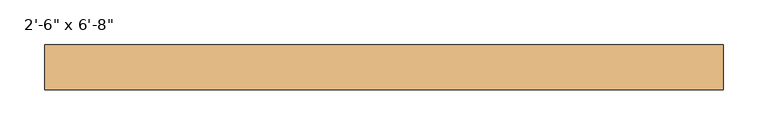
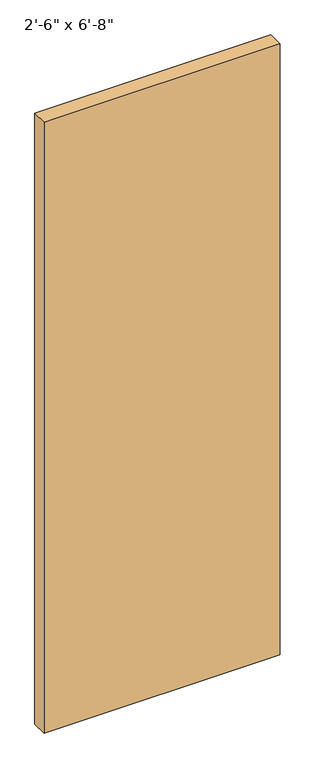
"""IFC4 building model written with IfcOpenShell, lengths in millimetres: door geometry."""

from ifc_helpers import new_model, si_unit, origin, origin_with_axes, place, context, project, spatial, polyline, outline, extrude, source, transform, mapped, element, save


def door_5feb2371(model_context):
    return source(origin(), model_context, "Body", "SweptSolid", [
        extrude(outline(polyline([(381.0, 6.15), (-381.0, 6.15), (-381.0, 57.15), (381.0, 57.15), (381.0, 6.15)])), origin_with_axes(), (0.0, 0.0, 1.0), 2082.8),
    ])


if __name__ == "__main__":
    model = new_model("IFC4")
    model_context = context("Model", 3, world=origin())
    ifc_project = project(units=[si_unit("LENGTHUNIT", "METRE", prefix="MILLI")], contexts=[model_context])
    site = spatial("IfcSite", under=ifc_project)
    building = spatial("IfcBuilding", under=site)
    placement = place(None, origin())
    door_shape = door_5feb2371(model_context)
    element("IfcDoor", 1, ObjectType="Planitar - Single Door_Flush Panel : 2'-6\" x 6'-8\"", at=placement, inside=building, context=model_context, shape_type="MappedRepresentation", body=[
        mapped(door_shape, transform((0.0, 0.0, 0.0), x_axis=(1.0, 0.0, 0.0), y_axis=(0.0, 1.0, 0.0), z_axis=(0.0, 0.0, 1.0))),
    ])
    save(model, "model.ifc")
